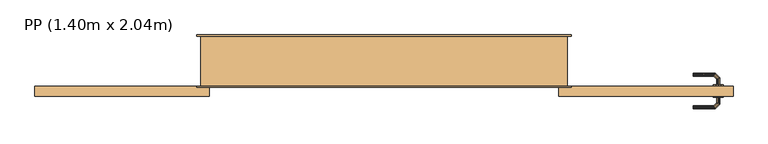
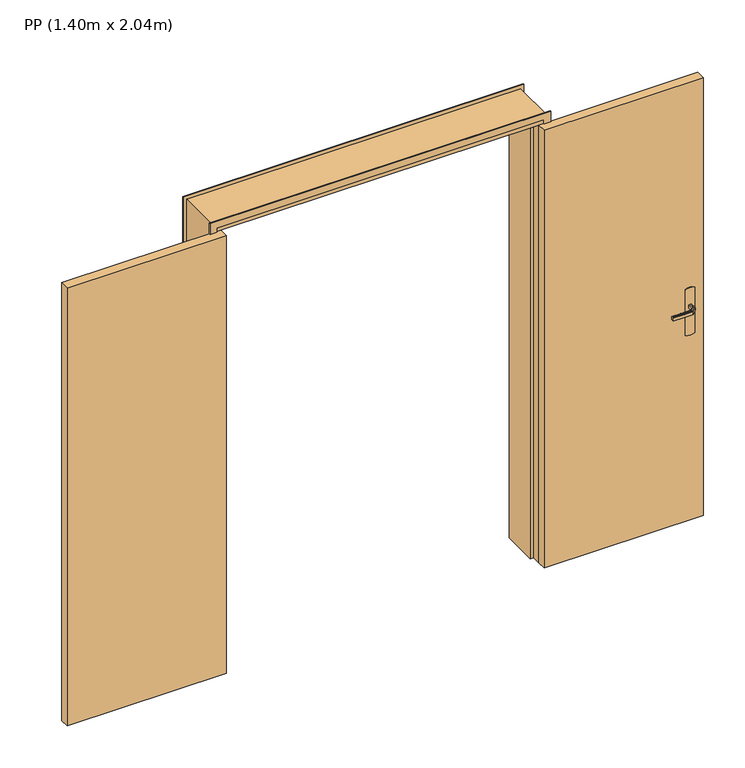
"""IFC4 building model written with IfcOpenShell, lengths in millimetres: door geometry, PP (1.40m x 2.04m)."""

from ifc_helpers import new_model, si_unit, frame, origin, origin_with_axes, place, context, project, spatial, polyline, outline, extrude, faceted_brep, source, transform, mapped, element, save


def pp_1_40m_x_2_04m_ac832800(model_context):
    return source(origin(), model_context, "Body", "SolidModel", [
        extrude(outline(polyline([(2135.0, -40.0), (1435.0, -40.0), (1435.0, 0.0), (2135.0, 0.0), (2135.0, -40.0)])), origin_with_axes(), (0.0, 0.0, 1.0), 2040.0),
        faceted_brep([(2077.0252987, -45.0, 1007.7804408), (2081.0, -45.0, 1007.0), (2081.0, -45.0, 993.0), (2077.0252987, -45.0, 992.2195592), (2072.9747013, -45.0, 992.2195592), (2069.0, -45.0, 993.0), (2069.0, -45.0, 1007.0), (2072.9747013, -45.0, 1007.7804408), (2069.0, -67.4852045, 993.0), (2069.0, -67.4852045, 1007.0), (2072.9747013, -69.1315797, 1007.7804408), (2059.1610938, -82.9451872, 1007.7804408), (2060.8389062, -86.9957845, 1007.7804408), (2077.0252987, -70.8093921, 1007.7804408), (2081.0, -72.4557673, 1007.0), (2081.0, -72.4557673, 993.0), (2077.0252987, -70.8093921, 992.2195592), (2060.8389062, -86.9957845, 992.2195592), (2059.1610938, -82.9451872, 992.2195592), (2072.9747013, -69.1315797, 992.2195592), (2057.5147186, -78.9704859, 993.0), (2057.5147186, -78.9704859, 1007.0), (2062.4852814, -90.9704859, 1007.0), (2062.4852814, -90.9704859, 993.0), (1974.9542163, -78.9704859, 993.0), (1974.9542163, -82.9451872, 992.2195592), (1974.9542163, -86.9957845, 992.2195592), (1974.9542163, -90.9704859, 993.0), (1974.9542163, -90.9704859, 1007.0), (1974.9542163, -86.9957845, 1007.7804408), (1974.9542163, -82.9451872, 1007.7804408), (1974.9542163, -78.9704859, 1007.0), (2016.2344794, -78.9704859, 993.0), (2016.2344675, -78.9704859, 1007.0), (2017.0576551, -84.9704859, 1007.8786868), (2022.5547942, -90.9704859, 1007.0), (2022.5547957, -90.9704859, 993.0), (2017.0576549, -84.9704858, 992.1213132)], [[[0, 1, 2, 3, 4, 5, 6, 7]], [[6, 5, 8, 9]], [[9, 10, 7, 6]], [[10, 11, 12, 13, 0, 7]], [[13, 14, 1, 0]], [[2, 1, 14, 15]], [[15, 16, 3, 2]], [[16, 17, 18, 19, 4, 3]], [[19, 8, 5, 4]], [[9, 8, 20, 21]], [[21, 11, 10, 9]], [[12, 22, 14, 13]], [[15, 14, 22, 23]], [[23, 17, 16, 15]], [[18, 20, 8, 19]], [[24, 25, 26, 27, 28, 29, 30, 31]], [[21, 20, 32, 24, 31, 33]], [[33, 30, 34]], [[35, 34, 29]], [[21, 33, 11]], [[33, 31, 30]], [[28, 35, 29]], [[22, 12, 35]], [[35, 12, 34]], [[12, 11, 34]], [[11, 33, 34]], [[29, 34, 30]], [[22, 35, 28, 27, 36, 23]], [[36, 26, 37]], [[27, 26, 36]], [[17, 23, 36]], [[37, 32, 18]], [[20, 18, 32]], [[32, 25, 24]], [[26, 25, 37]], [[25, 32, 37]], [[17, 36, 37]], [[17, 37, 18]]]),
        extrude(outline(polyline([(0.0, -15.0), (0.0, 15.0), (2060.0, 15.0), (2060.0, 1455.0), (0.0, 1455.0), (0.0, 1485.0), (2090.0, 1485.0), (2090.0, -15.0), (0.0, -15.0)])), frame((0.0, -5.0, 0.0), z_axis=(0.0, 1.0, 0.0), x_axis=(0.0, 0.0, 1.0)), (0.0, 0.0, 1.0), 5.0),
        faceted_brep([(2077.0252987, 5.0, 1007.7804408), (2072.9747013, 5.0, 1007.7804408), (2069.0, 5.0, 1007.0), (2069.0, 5.0, 993.0), (2072.9747013, 5.0, 992.2195592), (2077.0252987, 5.0, 992.2195592), (2081.0, 5.0, 993.0), (2081.0, 5.0, 1007.0), (2081.0, 32.6509507, 1007.0), (2077.0252987, 31.0045755, 1007.7804408), (2060.9764148, 47.0534593, 1007.7804408), (2059.2986025, 43.002862, 1007.7804408), (2072.9747013, 29.3267632, 1007.7804408), (2069.0, 27.680388, 1007.0), (2069.0, 27.680388, 993.0), (2072.9747013, 29.3267632, 992.2195592), (2059.2986025, 43.002862, 992.2195592), (2060.9764148, 47.0534593, 992.2195592), (2077.0252987, 31.0045755, 992.2195592), (2081.0, 32.6509507, 993.0), (2062.62279, 51.0281607, 1007.0), (2057.6522273, 39.0281607, 1007.0), (2057.6522273, 39.0281607, 993.0), (2062.62279, 51.0281607, 993.0), (1974.9813594, 51.0281607, 993.0), (1974.9813594, 47.0534593, 992.2195592), (1974.9813594, 43.002862, 992.2195592), (1974.9813594, 39.0281607, 993.0), (1974.9813594, 39.0281607, 1007.0), (1974.9813594, 43.002862, 1007.7804408), (1974.9813594, 47.0534593, 1007.7804408), (1974.9813594, 51.0281607, 1007.0), (2022.6923028, 51.0281607, 1007.0), (2017.1399809, 45.0281607, 1007.8786868), (2016.3167933, 39.0281607, 1007.0), (2016.3167933, 39.0281607, 993.0), (2017.1399811, 45.0281608, 992.1213132), (2022.6922998, 51.0281607, 993.0)], [[[0, 1, 2, 3, 4, 5, 6, 7]], [[8, 9, 0, 7]], [[9, 10, 11, 12, 1, 0]], [[12, 13, 2, 1]], [[3, 2, 13, 14]], [[14, 15, 4, 3]], [[15, 16, 17, 18, 5, 4]], [[18, 19, 6, 5]], [[7, 6, 19, 8]], [[20, 10, 9, 8]], [[11, 21, 13, 12]], [[14, 13, 21, 22]], [[22, 16, 15, 14]], [[17, 23, 19, 18]], [[8, 19, 23, 20]], [[24, 25, 26, 27, 28, 29, 30, 31]], [[32, 30, 33]], [[31, 30, 32]], [[10, 20, 32]], [[33, 34, 11]], [[21, 11, 34]], [[34, 29, 28]], [[30, 29, 33]], [[29, 34, 33]], [[10, 32, 33]], [[10, 33, 11]], [[22, 21, 34, 28, 27, 35]], [[35, 26, 36]], [[37, 36, 25]], [[22, 35, 16]], [[35, 27, 26]], [[24, 37, 25]], [[23, 17, 37]], [[37, 17, 36]], [[17, 16, 36]], [[16, 35, 36]], [[25, 36, 26]], [[20, 23, 37, 24, 31, 32]]]),
        extrude(outline(polyline([(1083.9960169, 2064.6472382), (1080.0, 2055.0), (870.0, 2055.0), (866.0039831, 2064.6472382), (864.6410162, 2075.0), (866.0039831, 2085.3527618), (870.0, 2095.0), (1080.0, 2095.0), (1083.9960169, 2085.3527618), (1085.3589838, 2075.0), (1083.9960169, 2064.6472382)])), frame((0.0, 0.0, 0.0), z_axis=(0.0, 1.0, 0.0), x_axis=(0.0, 0.0, 1.0)), (0.0, 0.0, 1.0), 5.0),
        extrude(outline(polyline([(1083.9960169, 2064.6472382), (1080.0, 2055.0), (870.0, 2055.0), (866.0039831, 2064.6472382), (864.6410162, 2075.0), (866.0039831, 2085.3527618), (870.0, 2095.0), (1080.0, 2095.0), (1083.9960169, 2085.3527618), (1085.3589838, 2075.0), (1083.9960169, 2064.6472382)])), frame((0.0, -45.0, 0.0), z_axis=(0.0, 1.0, 0.0), x_axis=(0.0, 0.0, 1.0)), (0.0, 0.0, 1.0), 5.0),
        extrude(outline(polyline([(0.0, -15.0), (0.0, 15.0), (2060.0, 15.0), (2060.0, 1455.0), (0.0, 1455.0), (0.0, 1485.0), (2090.0, 1485.0), (2090.0, -15.0), (0.0, -15.0)])), frame((0.0, 200.0, 0.0), z_axis=(0.0, 1.0, 0.0), x_axis=(0.0, 0.0, 1.0)), (0.0, 0.0, 1.0), 5.0),
        extrude(outline(polyline([(-665.0, -40.0), (-665.0, 0.0), (35.0, 0.0), (35.0, -40.0), (-665.0, -40.0)])), origin_with_axes(), (0.0, 0.0, 1.0), 2040.0),
        faceted_brep([(0.0, 0.0, 0.0), (0.0, 200.0, 0.0), (50.0, 200.0, 0.0), (50.0, 40.0, 0.0), (35.0, 40.0, 0.0), (35.0, 0.0, 0.0), (0.0, 0.0, 2075.0), (0.0, 200.0, 2075.0), (1470.0, 200.0, 2075.0), (1470.0, 200.0, 0.0), (1420.0, 200.0, 0.0), (1420.0, 200.0, 2025.0), (50.0, 200.0, 2025.0), (50.0, 40.0, 2025.0), (1420.0, 40.0, 2025.0), (1420.0, 40.0, 0.0), (1435.0, 40.0, 0.0), (1435.0, 40.0, 2040.0), (35.0, 40.0, 2040.0), (35.0, 0.0, 2040.0), (1435.0, 0.0, 2040.0), (1435.0, 0.0, 0.0), (1470.0, 0.0, 0.0), (1470.0, 0.0, 2075.0)], [[[0, 1, 2, 3, 4, 5]], [[1, 0, 6, 7]], [[2, 1, 7, 8, 9, 10, 11, 12]], [[3, 2, 12, 13]], [[4, 3, 13, 14, 15, 16, 17, 18]], [[5, 4, 18, 19]], [[0, 5, 19, 20, 21, 22, 23, 6]], [[8, 23, 22, 9]], [[22, 21, 16, 15, 10, 9]], [[14, 11, 10, 15]], [[20, 17, 16, 21]], [[7, 6, 23, 8]], [[13, 12, 11, 14]], [[19, 18, 17, 20]]]),
    ])


if __name__ == "__main__":
    model = new_model("IFC4")
    model_context = context("Model", 3, world=origin())
    ifc_project = project(units=[si_unit("LENGTHUNIT", "METRE", prefix="MILLI")], contexts=[model_context])
    site = spatial("IfcSite", under=ifc_project)
    building = spatial("IfcBuilding", under=site)
    placement = place(None, origin())
    pp_1_40m_x_2_04m_shape = pp_1_40m_x_2_04m_ac832800(model_context)
    element("IfcDoor", 1, ObjectType="PP (1.40m x 2.04m)", at=placement, inside=building, context=model_context, shape_type="MappedRepresentation", body=[
        mapped(pp_1_40m_x_2_04m_shape, transform((0.0, 0.0, 0.0), x_axis=(1.0, 0.0, 0.0), y_axis=(0.0, 1.0, 0.0), z_axis=(0.0, 0.0, 1.0))),
    ])
    save(model, "model.ifc")
